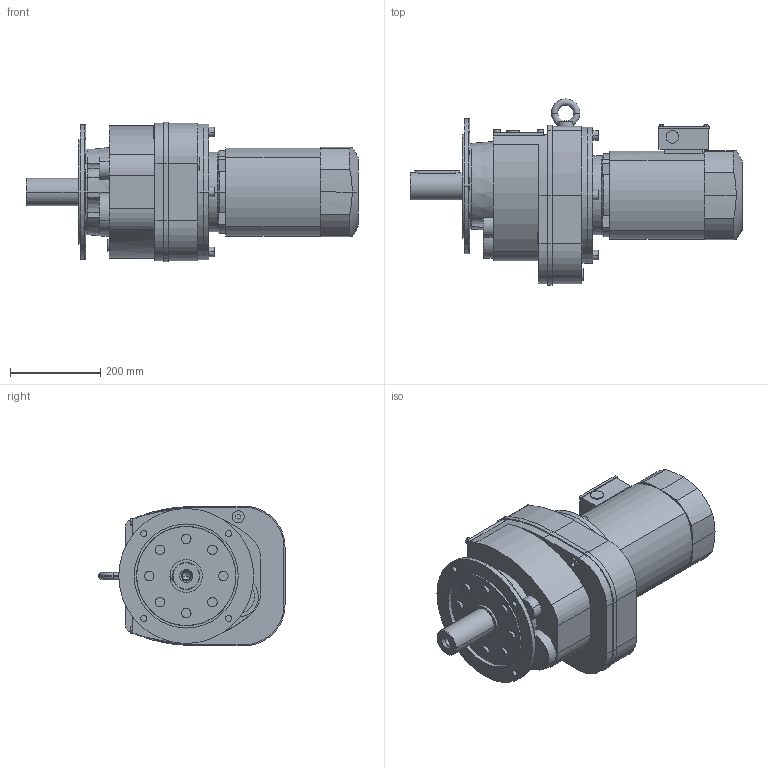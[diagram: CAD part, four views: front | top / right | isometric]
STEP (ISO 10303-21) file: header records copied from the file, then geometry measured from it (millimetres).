
FILE_DESCRIPTION(('STEP AP214'),'1');
FILE_NAME('STEP-File.stp','2018-01-01T00:00:00',(' '),('KEB'),' ','KEB-DRIVE',' ');
FILE_SCHEMA(('AUTOMOTIVE_DESIGN { 1 0 10303 214 1 1 1 1 }'));
Length unit declared in the file: millimetre
Products named in the file (9): g6b; w6_we_60x120; c6_300; cp6; dm112l_kkn; kk08; PLUG_M25; ndm112; G63C DM100LF4§CAD13
Assembly tree (8 placements, depth 2):
  G63C DM100LF4§CAD13
    g6b
    w6_we_60x120
    c6_300
    cp6
    dm112l_kkn
    kk08
    PLUG_M25
    ndm112
Bounding box: 734 x 411.5 x 309 mm (x, y, z)
Volume: 32370243.8 mm3; surface area: 1232832.8 mm2
Topology: 8 solids, 8 shells, 558 faces, 1621 edges, 1299 vertices
Faces by surface type: plane 351, cylinder 141, cone 58, torus 8
Entity records: 20643 total; most frequent: CARTESIAN_POINT 6293, ORIENTED_EDGE 3238, DIRECTION 2228, EDGE_CURVE 1619, VERTEX_POINT 1299, VECTOR 1150, LINE 1150, EDGE_LOOP 790
